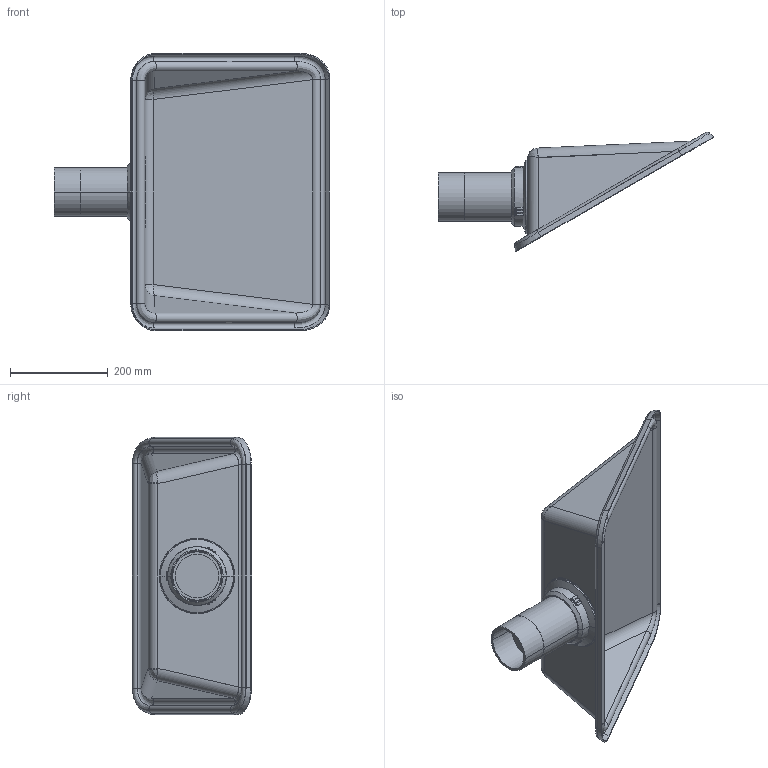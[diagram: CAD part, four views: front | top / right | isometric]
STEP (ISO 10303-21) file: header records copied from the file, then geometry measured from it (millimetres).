
FILE_DESCRIPTION((''),'2;1');
FILE_NAME('MESH500-100','2015-12-02T',('Tomas Bellgran'),(''),'PRO/ENGINEER BY PARAMETRIC TECHNOLOGY CORPORATION, 2013410','PRO/ENGINEER BY PARAMETRIC TECHNOLOGY CORPORATION, 2013410','');
FILE_SCHEMA(('AUTOMOTIVE_DESIGN { 1 0 10303 214 1 1 1 1 }'));
Length unit declared in the file: millimetre
Products named in the file (6): 105-878_AF0; 117041_AF0; 117016; 105-871; 117031; MESH500-100
Assembly tree (5 placements, depth 3):
  MESH500-100
    117016
      105-878_AF0
      117041_AF0
    105-871
    117031
Bounding box: 565.17 x 243.75 x 569.16 mm (x, y, z)
Volume: 1894615.4 mm3; surface area: 926297.8 mm2
Topology: 4 solids, 4 shells, 166 faces, 390 edges, 234 vertices
Faces by surface type: bspline 62, cylinder 49, plane 33, cone 16, torus 6
Entity records: 10985 total; most frequent: CARTESIAN_POINT 5229, ORIENTED_EDGE 780, DIRECTION 736, EDGE_CURVE 390, AXIS2_PLACEMENT_3D 319, PROPERTY_DEFINITION 244, REPRESENTATION 240, PROPERTY_DEFINITION_REPRESENTATION 240
